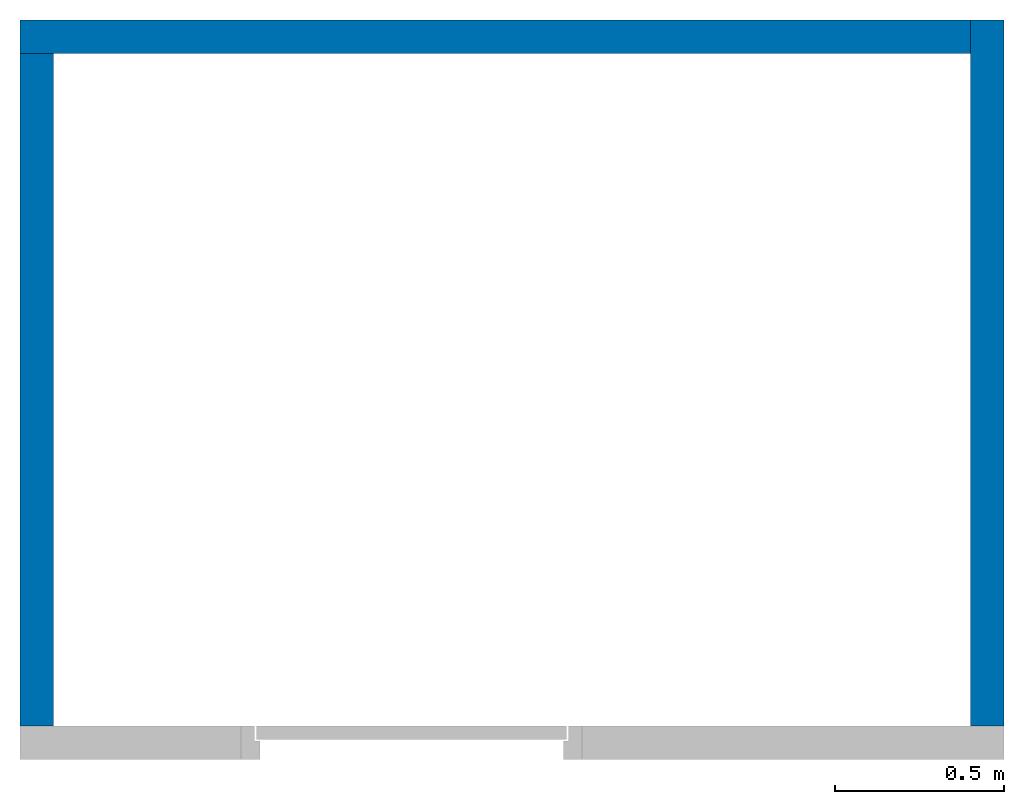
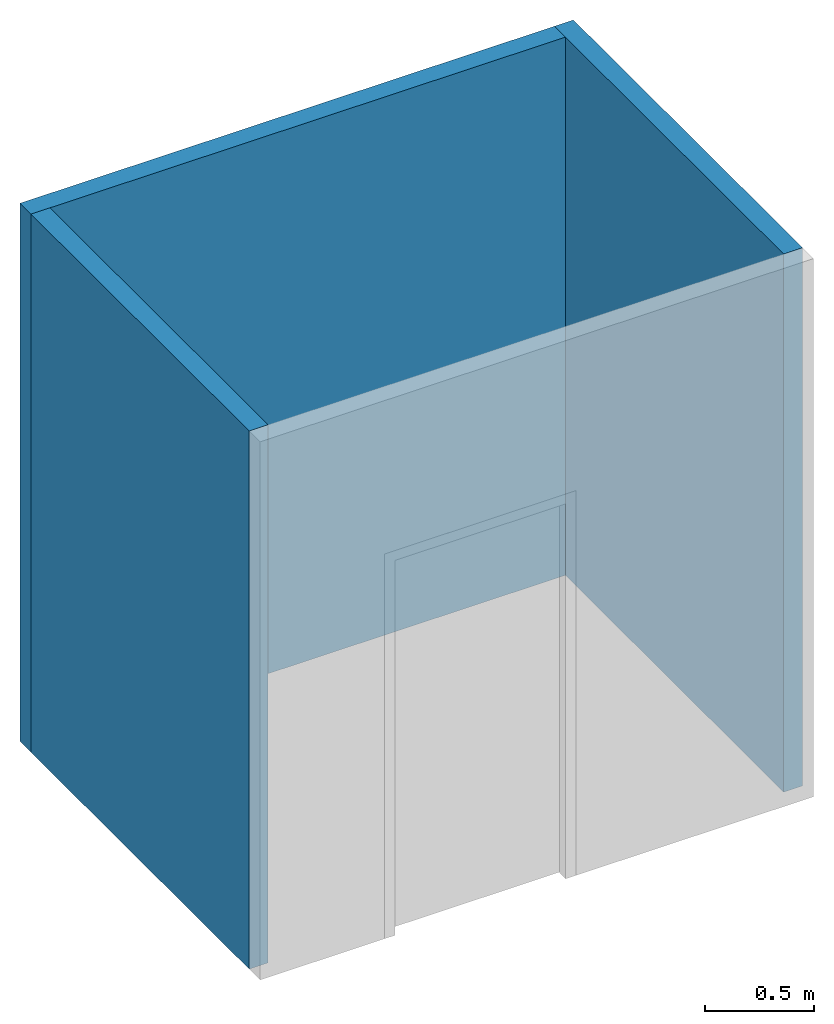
# One storey, incomplete: 3 walls.
"""IFC4 building model written with IfcOpenShell, lengths in millimetres."""

from ifc_helpers import new_model, entity, si_unit, converted_unit, frame, origin_with_axes, place, context, subcontext, project, spatial, polyline, outline, extrude, material, layer, layer_set, layer_usage, type_object, element, save


model = new_model("IFC4")

# Units and contexts
model_context = context("Model", 3, precision=1e-05)
plan_context = context("Plan", 2, precision=1e-05)
body_context = subcontext(model_context, "Body", "Model", "MODEL_VIEW")
ifc_project = project(units=[converted_unit("PLANEANGLEUNIT", "degree", entity("IfcReal", 0.0174532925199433), si_unit("PLANEANGLEUNIT", "RADIAN"), dimensions=[0, 0, 0, 0, 0, 0, 0]), si_unit("AREAUNIT", "SQUARE_METRE", prefix="MILLI"), si_unit("VOLUMEUNIT", "CUBIC_METRE", prefix="MILLI"), si_unit("LENGTHUNIT", "METRE", prefix="MILLI")], contexts=[model_context, plan_context])

# Site, building, storey
site_placement = place(None, origin_with_axes())
site = spatial("IfcSite", under=ifc_project, at=site_placement, Name="My Site")
building_placement = place(site_placement, origin_with_axes())
building = spatial("IfcBuilding", under=site, at=building_placement, Name="My Building")
storey_placement = place(building_placement, origin_with_axes())
storey = spatial("IfcBuildingStorey", under=building, at=storey_placement, Name="My Storey")

# Walls
ifc_material = material(Name="Unknown")
ifc_layer = layer(ifc_material, 100.0)
ifc_layer_set = layer_set([ifc_layer])
ifc_layer_usage_1 = layer_usage(ifc_layer_set, "AXIS2", "POSITIVE", 0.0)
wall_type = type_object("IfcWallType", Name="DEMO100", material=ifc_layer_set)
wall_1_placement = place(storey_placement, frame((2917.94490814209, 99.9999940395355, 0.0), z_axis=(0.0, 0.0, 1.0), x_axis=(-4.37113882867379e-08, 1.0, 0.0)))
element("IfcWall", 1, at=wall_1_placement, inside=storey, type_object=wall_type, material=ifc_layer_usage_1, Name="Wall", context=body_context, shape_type="SweptSolid", body=[
    extrude(outline(polyline([(-50.0000566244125, -1046.59843444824), (50.0000864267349, -1046.59843444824), (49.9999895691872, 1046.59843444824), (-50.000011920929, 1046.59843444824), (-50.0000566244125, -1046.59843444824)])), frame((1046.59843444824, 49.9999895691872, 0.0), z_axis=(0.0, 0.0, -1.0), x_axis=(0.0, -1.0, 0.0)), (0.0, 0.0, -1.0), 3000.0),
])
ifc_layer_usage_2 = layer_usage(ifc_layer_set, "AXIS2", "POSITIVE", 0.0)
wall_2_placement = place(storey_placement, frame((2817.94476509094, 2193.19677352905, 0.0), z_axis=(0.0, 0.0, 1.0), x_axis=(-1.0, -8.74227765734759e-08, 0.0)))
element("IfcWall", 2, at=wall_2_placement, inside=storey, type_object=wall_type, material=ifc_layer_usage_2, Name="Wall", context=body_context, shape_type="SweptSolid", body=[
    extrude(outline(polyline([(-49.9999895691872, -1408.97250175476), (50.0001534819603, -1408.97250175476), (49.9999150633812, 1408.97250175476), (-50.0000864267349, 1408.97250175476), (-49.9999895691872, -1408.97250175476)])), frame((1408.97250175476, 49.9999150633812, 0.0), z_axis=(0.0, 0.0, -1.0), x_axis=(0.0, -1.0, 0.0)), (0.0, 0.0, -1.0), 3000.0),
])
ifc_layer_usage_3 = layer_usage(ifc_layer_set, "AXIS2", "POSITIVE", 0.0)
wall_3_placement = place(storey_placement, frame((-0.000238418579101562, 2093.19663047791, 0.0), z_axis=(0.0, 0.0, 1.0), x_axis=(7.54979012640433e-08, -1.0, 0.0)))
element("IfcWall", 3, at=wall_3_placement, inside=storey, type_object=wall_type, material=ifc_layer_usage_3, Name="Wall", context=body_context, shape_type="SweptSolid", body=[
    extrude(outline(polyline([(-49.9999634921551, -996.598303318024), (50.000037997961, -996.598303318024), (49.9999634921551, 996.598303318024), (-50.000037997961, 996.598303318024), (-49.9999634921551, -996.598303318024)])), frame((996.598303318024, 49.9999634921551, 0.0), z_axis=(0.0, 0.0, -1.0), x_axis=(0.0, -1.0, 0.0)), (0.0, 0.0, -1.0), 3000.0),
])

save(model, "model.ifc")
